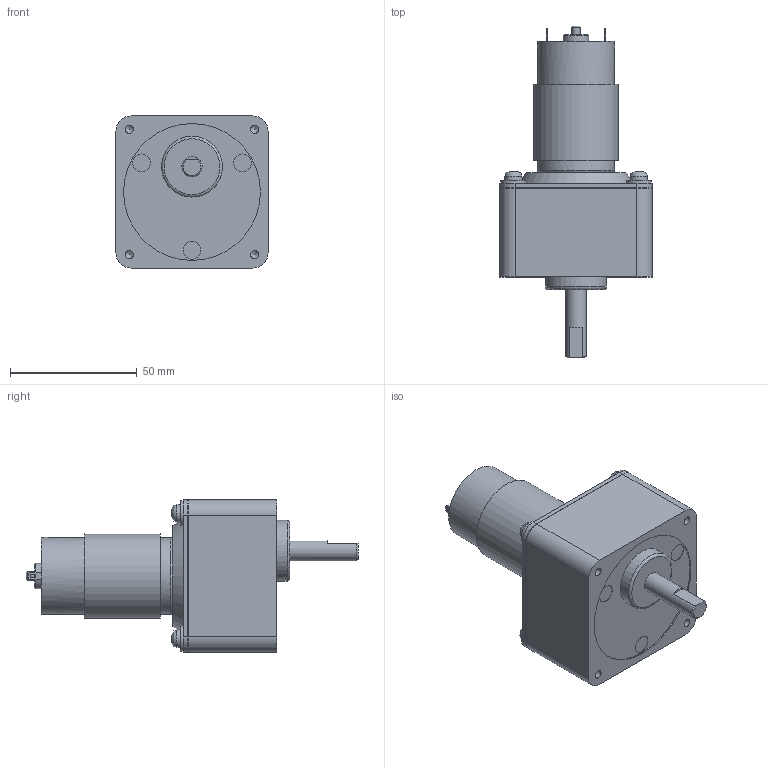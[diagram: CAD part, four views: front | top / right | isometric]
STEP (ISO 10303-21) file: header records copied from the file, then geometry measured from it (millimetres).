
FILE_DESCRIPTION((''),'2;1');
FILE_NAME('\\Servert1600\threepeace\2015homepage\STP\HP-Data_GM_3D_STEP\TP-3452A,B,C-CM-15～36-H00-12.24.stp','2016-11-11T11:47:01',('Administrator'),(''),'Autodesk Inventor 2010','Autodesk Inventor 2010','');
FILE_SCHEMA(('AUTOMOTIVE_DESIGN { 1 0 10303 214 1 1 1 1 }'));
Length unit declared in the file: millimetre
Products named in the file (3): TP-3452A,B,C-CM-15～36-H00-12; cm_3; TP-3452A,B,C
Assembly tree (2 placements, depth 2):
  TP-3452A,B,C-CM-15～36-H00-12
    cm_3
    TP-3452A,B,C
Bounding box: 60 x 131 x 60 mm (x, y, z)
Volume: 183546.4 mm3; surface area: 25282.7 mm2
Topology: 2 solids, 2 shells, 123 faces, 272 edges, 178 vertices
Faces by surface type: plane 60, cylinder 35, bspline 20, cone 4, torus 4
Full cylindrical faces by diameter (mm): 2.5 x1, 3.17 x2, 6.8 x4, 7 x3, 8 x1, 9.8 x4, 9.9 x1, 10 x1, 24 x1, 30.4 x1, 54 x1
Entity records: 3506 total; most frequent: CARTESIAN_POINT 933, DIRECTION 532, ORIENTED_EDGE 432, EDGE_CURVE 216, AXIS2_PLACEMENT_3D 210, EDGE_LOOP 195, VERTEX_POINT 165, FACE_OUTER_BOUND 123
